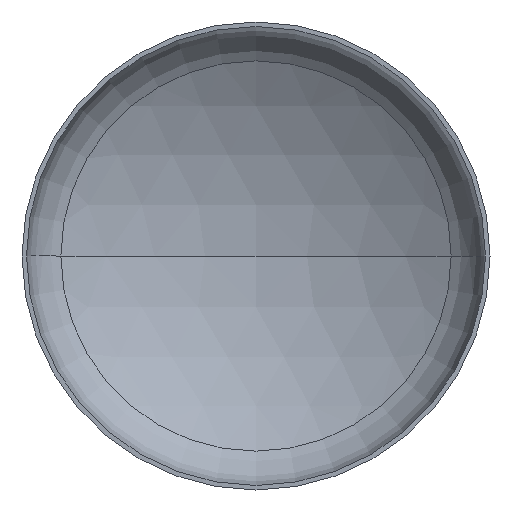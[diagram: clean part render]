
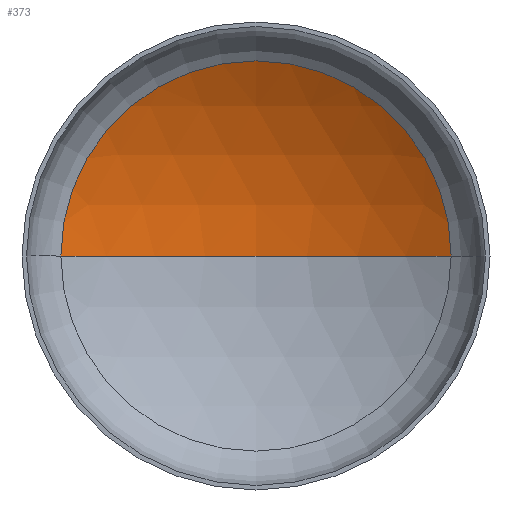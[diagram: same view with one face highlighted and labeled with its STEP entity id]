
A CAD part, front view. The second image highlights one B-rep face of the part: STEP entity #373.
In plain terms, the highlighted spherical face has radius 2560 mm.
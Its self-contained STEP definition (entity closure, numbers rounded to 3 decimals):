
#2 = VERTEX_POINT ( 'NONE', #250 ) ;
#11 = VERTEX_POINT ( 'NONE', #281 ) ;
#13 = CARTESIAN_POINT ( 'NONE',  ( 0., -1666.539, 0. ) ) ;
#18 = EDGE_LOOP ( 'NONE', ( #92, #84, #35 ) ) ;
#35 = ORIENTED_EDGE ( 'NONE', *, *, #111, .T. ) ;
#46 = AXIS2_PLACEMENT_3D ( 'NONE', #283, #187, #205 ) ;
#49 = AXIS2_PLACEMENT_3D ( 'NONE', #13, #141, #311 ) ;
#62 = AXIS2_PLACEMENT_3D ( 'NONE', #216, #212, #213 ) ;
#84 = ORIENTED_EDGE ( 'NONE', *, *, #118, .T. ) ;
#86 = VERTEX_POINT ( 'NONE', #246 ) ;
#92 = ORIENTED_EDGE ( 'NONE', *, *, #122, .F. ) ;
#111 = EDGE_CURVE ( 'NONE', #86, #2, #280, .T. ) ;
#118 = EDGE_CURVE ( 'NONE', #11, #86, #387, .T. ) ;
#122 = EDGE_CURVE ( 'NONE', #11, #2, #135, .T. ) ;
#135 = CIRCLE ( 'NONE', #46, 2560. ) ;
#141 = DIRECTION ( 'NONE',  ( 0., 0., -1. ) ) ;
#145 = CARTESIAN_POINT ( 'NONE',  ( 0., -1666.539, 0. ) ) ;
#174 = DIRECTION ( 'NONE',  ( -1., 0., 0. ) ) ;
#187 = DIRECTION ( 'NONE',  ( 0., 0., 1. ) ) ;
#205 = DIRECTION ( 'NONE',  ( 1., 0., 0. ) ) ;
#212 = DIRECTION ( 'NONE',  ( 0., -1., 0. ) ) ;
#213 = DIRECTION ( 'NONE',  ( 1., 0., 0. ) ) ;
#216 = CARTESIAN_POINT ( 'NONE',  ( 0., 518.166, 0. ) ) ;
#227 = DIRECTION ( 'NONE',  ( 0., 0., -1. ) ) ;
#229 = SPHERICAL_SURFACE ( 'NONE', #260, 2560. ) ;
#246 = CARTESIAN_POINT ( 'NONE',  ( 1334.415, 518.166, 0. ) ) ;
#250 = CARTESIAN_POINT ( 'NONE',  ( -1334.415, 518.166, 0. ) ) ;
#260 = AXIS2_PLACEMENT_3D ( 'NONE', #145, #227, #174 ) ;
#280 = CIRCLE ( 'NONE', #62, 1334.415 ) ;
#281 = CARTESIAN_POINT ( 'NONE',  ( 0., 893.461, 0. ) ) ;
#283 = CARTESIAN_POINT ( 'NONE',  ( 0., -1666.539, 0. ) ) ;
#284 = FACE_OUTER_BOUND ( 'NONE', #18, .T. ) ;
#311 = DIRECTION ( 'NONE',  ( -1., 0., 0. ) ) ;
#373 = ADVANCED_FACE ( 'NONE', ( #284 ), #229, .F. ) ;
#387 = CIRCLE ( 'NONE', #49, 2560. ) ;
